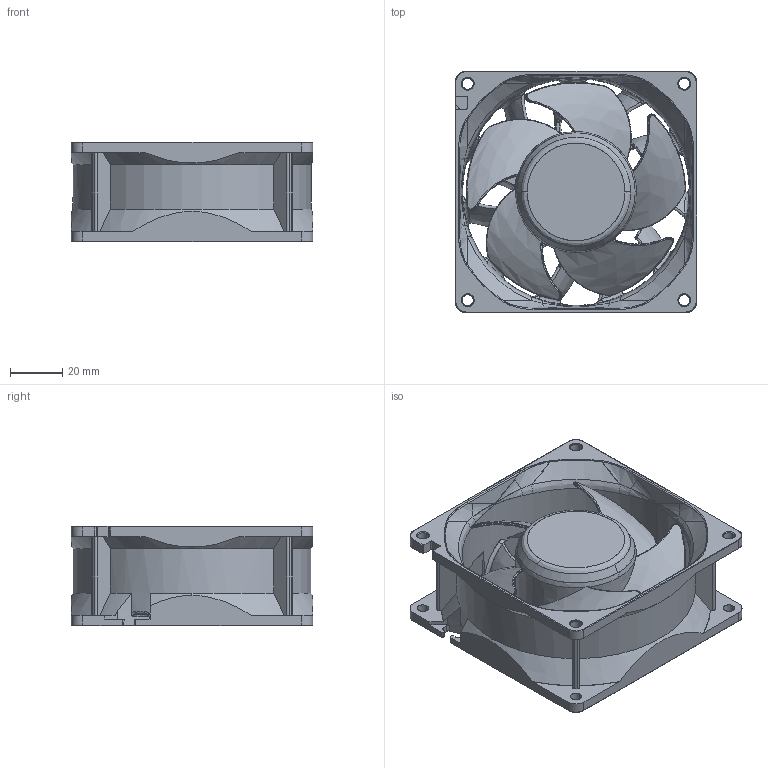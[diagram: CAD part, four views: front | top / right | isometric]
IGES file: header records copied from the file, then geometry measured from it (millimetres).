
Start section: SolidWorks IGES file using analytic representation for surfaces
Bounding box: 92 x 92 x 38 mm (x, y, z)
Surface area: 51940.3 mm2 (no closed solid volume)
Topology: 0 solids, 0 shells, 868 faces, 7482 edges, 7433 vertices
Faces by surface type: bspline 691, revolution 177
